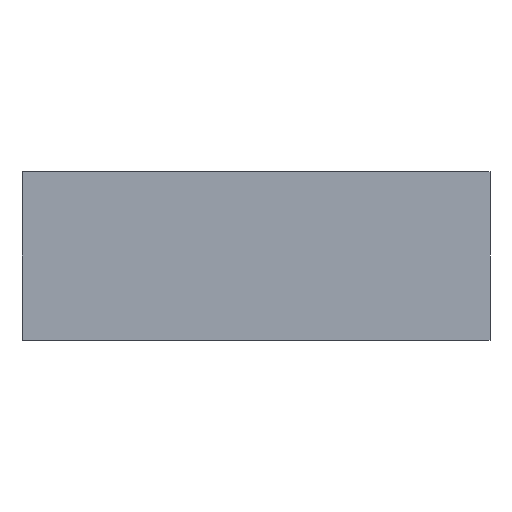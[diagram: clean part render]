
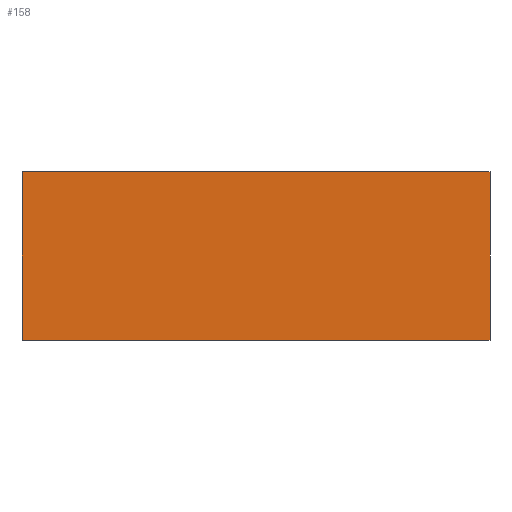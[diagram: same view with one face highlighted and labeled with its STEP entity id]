
A CAD part, front view. The second image highlights one B-rep face of the part: STEP entity #158.
In plain terms, the highlighted planar face has unit normal (0, -1, 0).
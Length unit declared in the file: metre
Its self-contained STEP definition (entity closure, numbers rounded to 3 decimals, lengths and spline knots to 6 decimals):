
#31=ORIENTED_EDGE('',*,*,#67,.F.);
#32=ORIENTED_EDGE('',*,*,#60,.F.);
#33=ORIENTED_EDGE('',*,*,#68,.T.);
#34=ORIENTED_EDGE('',*,*,#62,.T.);
#60=EDGE_CURVE('',#78,#76,#92,.T.);
#62=EDGE_CURVE('',#81,#80,#94,.T.);
#67=EDGE_CURVE('',#76,#80,#97,.T.);
#68=EDGE_CURVE('',#78,#81,#98,.T.);
#76=VERTEX_POINT('',#240);
#78=VERTEX_POINT('',#244);
#80=VERTEX_POINT('',#249);
#81=VERTEX_POINT('',#251);
#92=LINE('',#245,#104);
#94=LINE('',#250,#106);
#97=LINE('',#261,#109);
#98=LINE('',#262,#110);
#104=VECTOR('',#199,1.);
#106=VECTOR('',#203,1.);
#109=VECTOR('',#214,1.);
#110=VECTOR('',#215,1.);
#117=EDGE_LOOP('',(#31,#32,#33,#34));
#135=FACE_BOUND('',#117,.T.);
#151=PLANE('',#182);
#158=ADVANCED_FACE('',(#135),#151,.T.);
#182=AXIS2_PLACEMENT_3D('',#260,#212,#213);
#199=DIRECTION('',(0.,0.,-1.));
#203=DIRECTION('',(0.,0.,-1.));
#212=DIRECTION('',(0.,-1.,0.));
#213=DIRECTION('',(0.,0.,-1.));
#214=DIRECTION('',(-1.,0.,0.));
#215=DIRECTION('',(-1.,0.,0.));
#240=CARTESIAN_POINT('',(-0.044193,-0.049019,0.));
#244=CARTESIAN_POINT('',(-0.044193,-0.049019,0.0036));
#245=CARTESIAN_POINT('',(-0.044193,-0.049019,0.0036));
#249=CARTESIAN_POINT('',(-0.054193,-0.049019,0.));
#250=CARTESIAN_POINT('',(-0.054193,-0.049019,0.0036));
#251=CARTESIAN_POINT('',(-0.054193,-0.049019,0.0036));
#260=CARTESIAN_POINT('',(-0.049193,-0.049019,0.0036));
#261=CARTESIAN_POINT('',(-0.049193,-0.049019,0.));
#262=CARTESIAN_POINT('',(-0.049193,-0.049019,0.0036));
